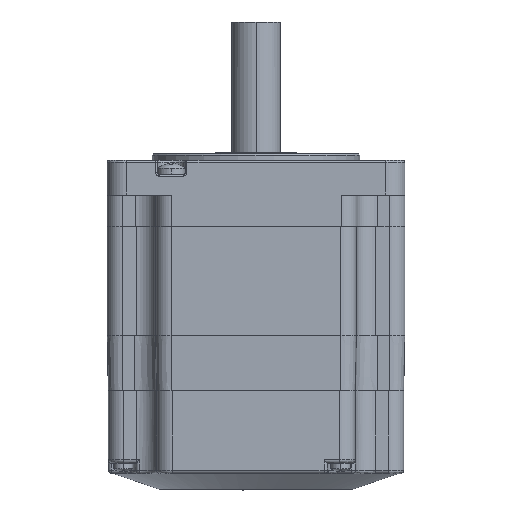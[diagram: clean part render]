
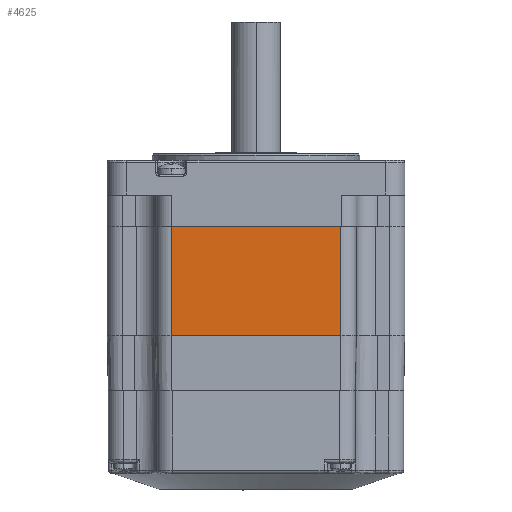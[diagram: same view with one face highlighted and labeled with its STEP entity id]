
A CAD part, front view. The second image highlights one B-rep face of the part: STEP entity #4625.
In plain terms, the highlighted planar face has unit normal (0, -1, 0).
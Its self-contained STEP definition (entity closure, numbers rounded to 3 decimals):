
#3509 = ORIENTED_EDGE ( 'NONE', *, *, #61833, .F. ) ;
#4625 = ADVANCED_FACE ( 'NONE', ( #19892 ), #55711, .T. ) ;
#6029 = DIRECTION ( 'NONE',  ( 0., 0., -1. ) ) ;
#6737 = EDGE_LOOP ( 'NONE', ( #37110, #30194, #27591, #3509 ) ) ;
#7743 = LINE ( 'NONE', #26560, #57377 ) ;
#9308 = CARTESIAN_POINT ( 'NONE',  ( -24.5, -43., 0. ) ) ;
#16925 = VECTOR ( 'NONE', #55177, 1000. ) ;
#19892 = FACE_OUTER_BOUND ( 'NONE', #6737, .T. ) ;
#24083 = EDGE_CURVE ( 'NONE', #55873, #52905, #7743, .T. ) ;
#26560 = CARTESIAN_POINT ( 'NONE',  ( -43., -43., -31.5 ) ) ;
#26924 = DIRECTION ( 'NONE',  ( 0., 0., -1. ) ) ;
#27591 = ORIENTED_EDGE ( 'NONE', *, *, #24083, .T. ) ;
#29575 = AXIS2_PLACEMENT_3D ( 'NONE', #50878, #60151, #26924 ) ;
#30194 = ORIENTED_EDGE ( 'NONE', *, *, #59270, .T. ) ;
#32755 = VERTEX_POINT ( 'NONE', #61209 ) ;
#33779 = CARTESIAN_POINT ( 'NONE',  ( -24.5, -43., -31.5 ) ) ;
#34668 = LINE ( 'NONE', #58768, #58773 ) ;
#37110 = ORIENTED_EDGE ( 'NONE', *, *, #41330, .T. ) ;
#39434 = VECTOR ( 'NONE', #42869, 1000. ) ;
#41330 = EDGE_CURVE ( 'NONE', #60038, #32755, #53749, .T. ) ;
#42869 = DIRECTION ( 'NONE',  ( -1., 0., 0. ) ) ;
#47655 = CARTESIAN_POINT ( 'NONE',  ( 24.5, -43., -31.5 ) ) ;
#50352 = CARTESIAN_POINT ( 'NONE',  ( -24.5, -43., -31.5 ) ) ;
#50878 = CARTESIAN_POINT ( 'NONE',  ( -24.5, -43., -31.5 ) ) ;
#52905 = VERTEX_POINT ( 'NONE', #47655 ) ;
#53749 = LINE ( 'NONE', #9308, #39434 ) ;
#55177 = DIRECTION ( 'NONE',  ( 0., 0., -1. ) ) ;
#55248 = LINE ( 'NONE', #50352, #16925 ) ;
#55361 = DIRECTION ( 'NONE',  ( 1., 0., 0. ) ) ;
#55711 = PLANE ( 'NONE',  #29575 ) ;
#55873 = VERTEX_POINT ( 'NONE', #33779 ) ;
#56520 = CARTESIAN_POINT ( 'NONE',  ( 24.5, -43., 0. ) ) ;
#57377 = VECTOR ( 'NONE', #55361, 1000. ) ;
#58768 = CARTESIAN_POINT ( 'NONE',  ( 24.5, -43., -31.5 ) ) ;
#58773 = VECTOR ( 'NONE', #6029, 1000. ) ;
#59270 = EDGE_CURVE ( 'NONE', #32755, #55873, #55248, .T. ) ;
#60038 = VERTEX_POINT ( 'NONE', #56520 ) ;
#60151 = DIRECTION ( 'NONE',  ( 0., -1., 0. ) ) ;
#61209 = CARTESIAN_POINT ( 'NONE',  ( -24.5, -43., 0. ) ) ;
#61833 = EDGE_CURVE ( 'NONE', #60038, #52905, #34668, .T. ) ;
